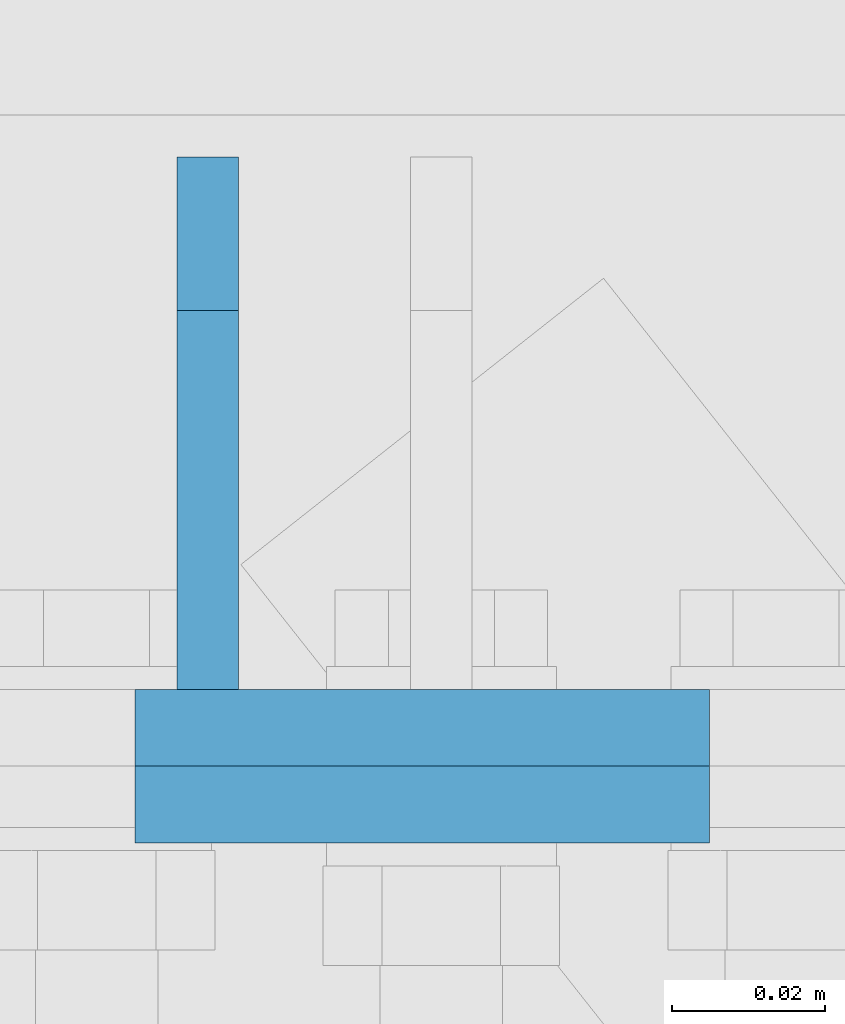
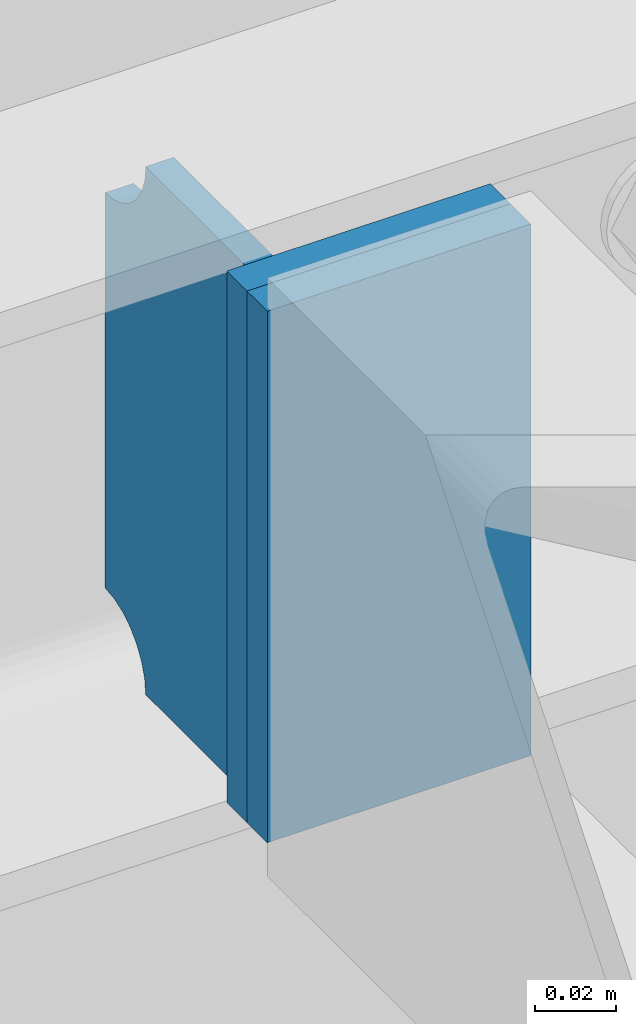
# One storey, part 8 of 22: 3 plates, 1 element without a shape of its own.
"""IFC2X3 building model written with IfcOpenShell, lengths in millimetres."""

from ifc_helpers import new_model, si_unit, frame, frame_2d, origin_with_axes, place, context, subcontext, project, spatial, polyline, circle_curve, parameter, trimmed, segment, composite_curve, outline, extrude, material, type_object, element, aggregate, save


model = new_model("IFC2X3")

# Units and contexts
model_context = context("Model", 3, precision=1e-05, world=origin_with_axes())
body_context = subcontext(model_context, "Body", "Model", "MODEL_VIEW")
ifc_project = project(units=[si_unit("LENGTHUNIT", "METRE", prefix="MILLI"), si_unit("AREAUNIT", "SQUARE_METRE"), si_unit("VOLUMEUNIT", "CUBIC_METRE"), si_unit("MASSUNIT", "GRAM", prefix="KILO"), si_unit("TIMEUNIT", "SECOND"), si_unit("PLANEANGLEUNIT", "RADIAN"), si_unit("SOLIDANGLEUNIT", "STERADIAN"), si_unit("THERMODYNAMICTEMPERATUREUNIT", "DEGREE_CELSIUS"), si_unit("LUMINOUSINTENSITYUNIT", "LUMEN")], contexts=[model_context])

# Site, building, storey
site_placement = place(None, origin_with_axes())
site = spatial("IfcSite", under=ifc_project, at=site_placement, Name="Undefined", CompositionType="ELEMENT")
building_placement = place(site_placement, origin_with_axes())
building = spatial("IfcBuilding", under=site, at=building_placement, Name="Undefined", CompositionType="ELEMENT")
storey_placement = place(building_placement, origin_with_axes())
storey = spatial("IfcBuildingStorey", under=building, at=storey_placement, Name="Undefined", CompositionType="ELEMENT", Elevation=0.0)

# Assembly, plates
assembly_placement = place(storey_placement, origin_with_axes())
assembly = element("IfcElementAssembly", 1, at=assembly_placement, inside=storey, Name="CONCRETE_SLAB", AssemblyPlace="NOTDEFINED", PredefinedType="REINFORCEMENT_UNIT")
ifc_material = material(Name="STEEL/S235JR")
plate_type_1 = type_object("IfcPlateType", Name="PL8*70", PredefinedType="NOTDEFINED")
plate_1_placement = place(assembly_placement, frame((19.5, 3785.0, 3289.5), z_axis=(-1.0, 0.0, 0.0), x_axis=(0.0, 1.0, 0.0)))
plate_1 = element("IfcPlate", 2, at=plate_1_placement, type_object=plate_type_1, material=ifc_material, Name="PLECH", ObjectType="PL8*70", context=body_context, shape_type="SweptSolid", body=[
    extrude(outline(composite_curve([segment(polyline([(0.0, 0.0), (49.5, 0.0)]), True, "CONTINUOUS"), segment(trimmed(circle_curve(frame_2d((69.5, 0.0), x_axis=(-1.0, 0.0)), 20.0), [parameter(0.0)], [parameter(4.71238898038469)], False, "PARAMETER"), True, "CONTINUOUS"), segment(polyline([(69.5, 20.0), (69.5, 139.0)]), True, "CONTINUOUS"), segment(trimmed(circle_curve(frame_2d((69.5, 159.0), x_axis=(0.0, -1.0)), 20.0), [parameter(0.0)], [parameter(4.71238898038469)], False, "PARAMETER"), True, "CONTINUOUS"), segment(polyline([(49.5, 159.0), (-3.63797880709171e-12, 159.0), (0.0, 0.0)]), True, "DISCONTINUOUS")], self_intersect=False)), frame((0.0, 0.0, -4.0), z_axis=(0.0, 0.0, 1.0), x_axis=(1.0, 0.0, 0.0)), (0.0, 0.0, 1.0), 8.0),
])
plate_type_2 = type_object("IfcPlateType", Name="PL10*75", PredefinedType="NOTDEFINED")
plate_2_placement = place(assembly_placement, frame((85.0, 3770.0, 3130.0), z_axis=(0.0, -1.0, 0.0), x_axis=(0.0, 0.0, 1.0)))
plate_2 = element("IfcPlate", 3, at=plate_2_placement, type_object=plate_type_2, material=ifc_material, Name="PLECH", ObjectType="PL10*75", context=body_context, shape_type="SweptSolid", body=[
    extrude(outline(polyline([(0.0, 0.0), (160.0, 0.0), (160.0, 75.0), (0.0, 75.0), (0.0, 0.0)])), frame((0.0, 0.0, -5.0), z_axis=(0.0, 0.0, 1.0), x_axis=(1.0, 0.0, 0.0)), (0.0, 0.0, 1.0), 10.0),
])
plate_3_placement = place(assembly_placement, frame((85.0, 3780.0, 3130.0), z_axis=(0.0, -1.0, 0.0), x_axis=(0.0, 0.0, 1.0)))
plate_3 = element("IfcPlate", 4, at=plate_3_placement, type_object=plate_type_2, material=ifc_material, Name="PLECH", ObjectType="PL10*75", context=body_context, shape_type="SweptSolid", body=[
    extrude(outline(polyline([(0.0, 0.0), (160.0, 0.0), (160.0, 75.0), (0.0, 75.0), (0.0, 0.0)])), frame((0.0, 0.0, -5.0), z_axis=(0.0, 0.0, 1.0), x_axis=(1.0, 0.0, 0.0)), (0.0, 0.0, 1.0), 10.0),
])
aggregate(assembly, [plate_1, plate_2, plate_3])

save(model, "model.ifc")
